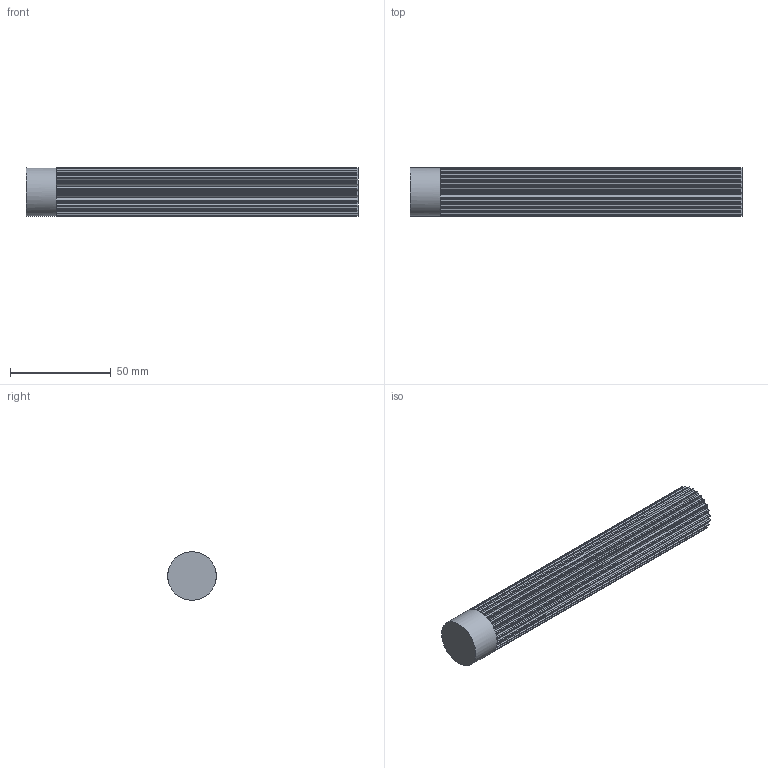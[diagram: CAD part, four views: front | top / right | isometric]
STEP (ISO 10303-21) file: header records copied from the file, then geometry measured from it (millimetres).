
FILE_DESCRIPTION( ( 'STEP AP214' ), '1' );
FILE_NAME( 'C:/Users/StangenbergN/Desktop/Steps Zahnriemenräder/K166_HTD-Zahnwellen/17092600.stp', '2019-06-06T09:34:16', ( '' ), ( '' ), ' ', 'PARTsolutions', ' ' );
FILE_SCHEMA( ( 'AUTOMOTIVE_DESIGN { 1 0 10303 214 1 1 1 1 }' ) );
Length unit declared in the file: millimetre
Products named in the file (1): _17092600
Bounding box: 165 x 24.07 x 24.07 mm (x, y, z)
Volume: 66842.4 mm3; surface area: 17459.8 mm2
Topology: 1 solids, 1 shells, 211 faces, 627 edges, 418 vertices
Faces by surface type: plane 106, cylinder 105
Full cylindrical faces by diameter (mm): 24.07 x1
Entity records: 8872 total; most frequent: DIRECTION 1310, CARTESIAN_POINT 1254, ORIENTED_EDGE 1250, EDGE_CURVE 625, AXIS2_PLACEMENT_3D 473, VERTEX_POINT 417, LINE 364, VECTOR 364
